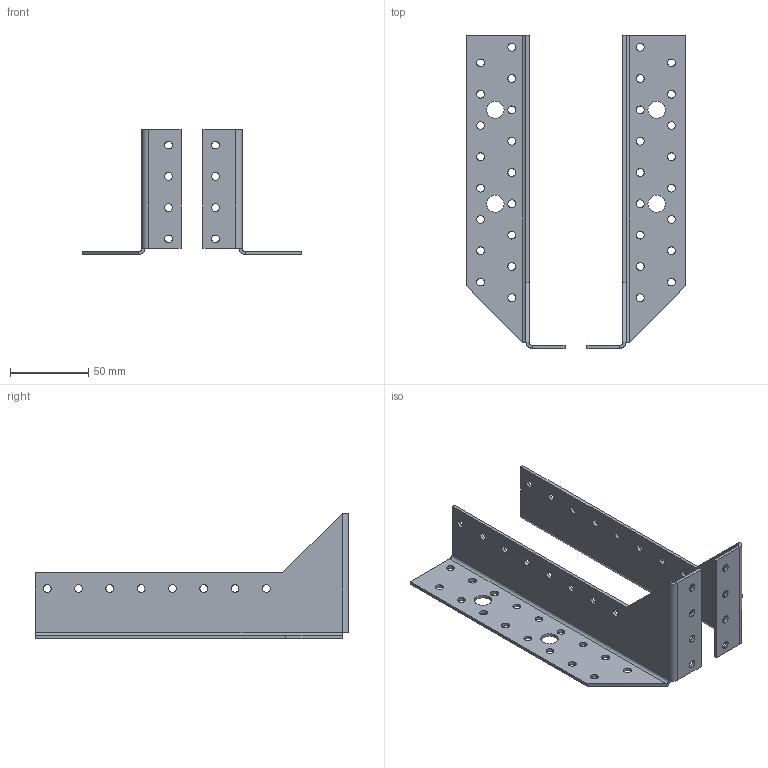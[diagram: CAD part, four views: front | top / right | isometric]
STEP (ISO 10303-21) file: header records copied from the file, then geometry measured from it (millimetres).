
FILE_DESCRIPTION (( 'STEP AP203' ), '1' );
FILE_NAME ('202.STEP', '2021-04-18T12:32:34', ( '' ), ( '' ), 'SwSTEP 2.0', 'SolidWorks 2013', '' );
FILE_SCHEMA (( 'CONFIG_CONTROL_DESIGN' ));
Length unit declared in the file: millimetre
Products named in the file (1): 202
Bounding box: 140 x 200 x 80 mm (x, y, z)
Volume: 66785.2 mm3; surface area: 71417.7 mm2
Topology: 2 solids, 2 shells, 170 faces, 466 edges, 300 vertices
Faces by surface type: cylinder 132, plane 38
Entity records: 5821 total; most frequent: DIRECTION 1072, CARTESIAN_POINT 937, ORIENTED_EDGE 932, EDGE_CURVE 466, AXIS2_PLACEMENT_3D 435, VERTEX_POINT 300, EDGE_LOOP 294, CIRCLE 264
